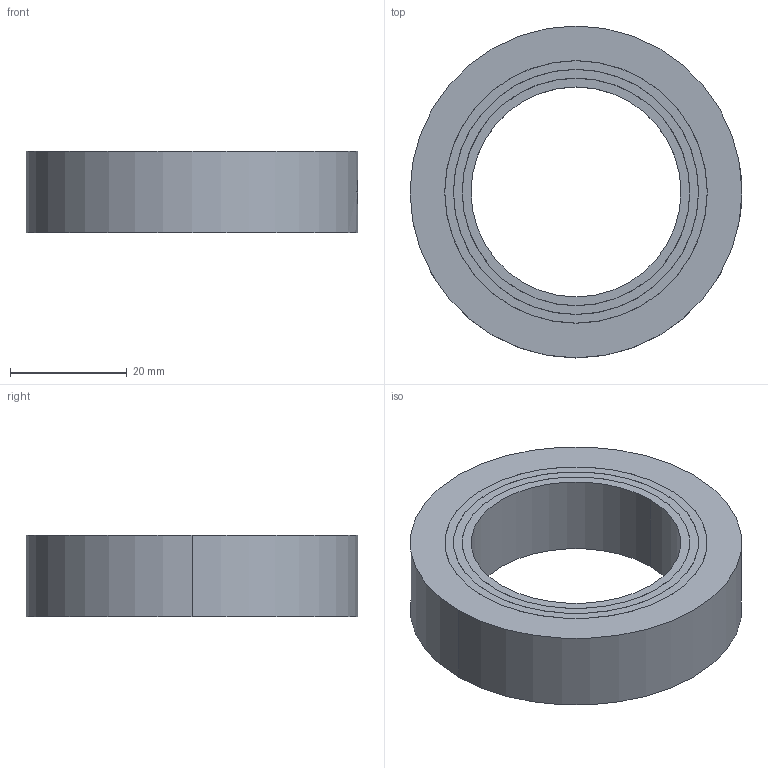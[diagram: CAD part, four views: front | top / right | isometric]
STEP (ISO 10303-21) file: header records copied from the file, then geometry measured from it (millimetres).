
FILE_DESCRIPTION (( 'STEP AP203' ), '1' );
FILE_NAME ('348 UG-36.STEP', '2007-02-26T08:48:44', ( ' ' ), ( '' ), 'SwSTEP 2.0', 'SolidWorks 2005278', '' );
FILE_SCHEMA (( 'CONFIG_CONTROL_DESIGN' ));
Length unit declared in the file: millimetre
Products named in the file (1): 348 UG-36
Bounding box: 56.9 x 56.9 x 14 mm (x, y, z)
Volume: 21245.8 mm3; surface area: 17433.7 mm2
Topology: 1 solids, 1 shells, 61 faces, 153 edges, 102 vertices
Faces by surface type: plane 42, cylinder 19
Entity records: 1948 total; most frequent: CARTESIAN_POINT 377, DIRECTION 317, ORIENTED_EDGE 306, EDGE_CURVE 153, AXIS2_PLACEMENT_3D 122, VERTEX_POINT 102, VECTOR 73, LINE 73
